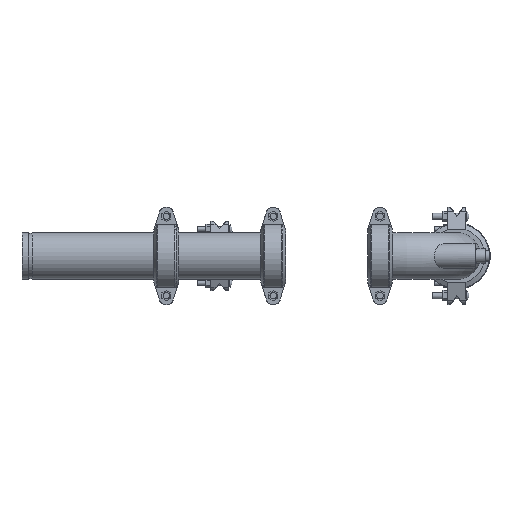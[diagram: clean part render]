
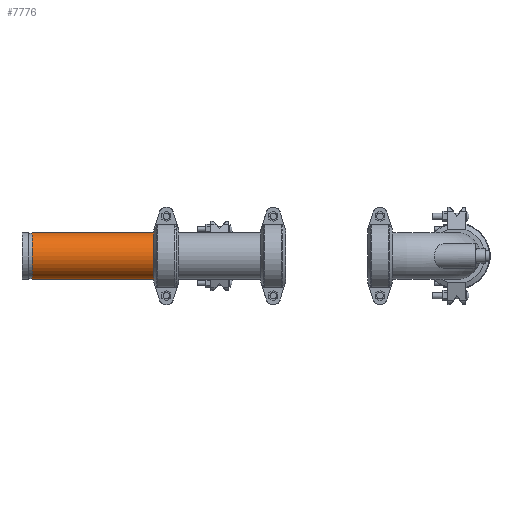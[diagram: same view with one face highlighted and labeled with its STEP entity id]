
A CAD part, left-side view. The second image highlights one B-rep face of the part: STEP entity #7776.
In plain terms, the highlighted cylindrical face has radius 57.15 mm (diameter 114.3 mm), a full revolution.
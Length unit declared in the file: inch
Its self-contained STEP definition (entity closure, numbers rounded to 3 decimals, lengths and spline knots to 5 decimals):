
#220=B_SPLINE_CURVE_WITH_KNOTS('',3,(#14195,#14196,#14197,#14198,#14199,
#14200,#14201,#14202,#14203,#14204,#14205,#14206,#14207,#14208,#14209,#14210,
#14211,#14212,#14213,#14214,#14215,#14216,#14217,#14218,#14219,#14220,#14221,
#14222,#14223,#14224,#14225,#14226),.UNSPECIFIED.,.F.,.F.,(4,2,2,2,2,2,
2,2,2,2,2,2,2,2,2,4),(6.32677,7.01093,7.69508,
8.37924,9.0634,10.85847,11.756,12.65354,
13.33788,14.02223,14.70658,15.39092,16.0566,
16.72228,17.38796,18.05364),.UNSPECIFIED.);
#221=B_SPLINE_CURVE_WITH_KNOTS('',3,(#14229,#14230,#14231,#14232,#14233,
#14234,#14235,#14236,#14237,#14238,#14239,#14240,#14241,#14242,#14243,#14244,
#14245,#14246),.UNSPECIFIED.,.F.,.F.,(4,2,2,2,2,2,2,2,4),(18.05364,
18.71932,19.385,20.05068,20.71636,21.40071,
22.08506,22.7694,23.45375),.UNSPECIFIED.);
#222=B_SPLINE_CURVE_WITH_KNOTS('',3,(#14247,#14248,#14249,#14250,#14251,
#14252,#14253,#14254,#14255,#14256,#14257,#14258,#14259,#14260,#14261,#14262),
 .UNSPECIFIED.,.F.,.F.,(4,2,2,2,2,2,2,4),(0.,0.89753,1.79507,
3.59014,4.2743,4.95845,5.64261,6.32677),
 .UNSPECIFIED.);
#763=LINE('',#14193,#1266);
#764=LINE('',#14227,#1267);
#1266=VECTOR('',#11199,2.25);
#1267=VECTOR('',#11200,2.25);
#1405=CYLINDRICAL_SURFACE('',#8920,2.25);
#1883=FACE_OUTER_BOUND('',#2362,.T.);
#2362=EDGE_LOOP('',(#6691,#6692,#6693,#6694,#6695,#6696,#6697,#6698,#6699,
#6700,#6701));
#2792=CIRCLE('',#8902,2.25);
#2793=CIRCLE('',#8903,2.25);
#2806=CIRCLE('',#8921,2.25);
#2807=CIRCLE('',#8922,2.25);
#3521=VERTEX_POINT('',#14152);
#3522=VERTEX_POINT('',#14153);
#3535=VERTEX_POINT('',#14188);
#3536=VERTEX_POINT('',#14189);
#3537=VERTEX_POINT('',#14192);
#3538=VERTEX_POINT('',#14194);
#3539=VERTEX_POINT('',#14228);
#4580=EDGE_CURVE('',#3521,#3522,#2792,.T.);
#4581=EDGE_CURVE('',#3522,#3521,#2793,.T.);
#4597=EDGE_CURVE('',#3535,#3536,#2806,.T.);
#4598=EDGE_CURVE('',#3536,#3535,#2807,.T.);
#4599=EDGE_CURVE('',#3536,#3537,#763,.T.);
#4600=EDGE_CURVE('',#3537,#3538,#220,.T.);
#4601=EDGE_CURVE('',#3538,#3522,#764,.T.);
#4602=EDGE_CURVE('',#3538,#3539,#221,.T.);
#4603=EDGE_CURVE('',#3539,#3537,#222,.T.);
#6691=ORIENTED_EDGE('',*,*,#4597,.F.);
#6692=ORIENTED_EDGE('',*,*,#4598,.F.);
#6693=ORIENTED_EDGE('',*,*,#4599,.T.);
#6694=ORIENTED_EDGE('',*,*,#4600,.T.);
#6695=ORIENTED_EDGE('',*,*,#4601,.T.);
#6696=ORIENTED_EDGE('',*,*,#4581,.T.);
#6697=ORIENTED_EDGE('',*,*,#4580,.T.);
#6698=ORIENTED_EDGE('',*,*,#4601,.F.);
#6699=ORIENTED_EDGE('',*,*,#4602,.T.);
#6700=ORIENTED_EDGE('',*,*,#4603,.T.);
#6701=ORIENTED_EDGE('',*,*,#4599,.F.);
#7776=ADVANCED_FACE('',(#1883),#1405,.T.);
#8902=AXIS2_PLACEMENT_3D('',#14154,#11154,#11155);
#8903=AXIS2_PLACEMENT_3D('',#14155,#11156,#11157);
#8920=AXIS2_PLACEMENT_3D('',#14187,#11193,#11194);
#8921=AXIS2_PLACEMENT_3D('',#14190,#11195,#11196);
#8922=AXIS2_PLACEMENT_3D('',#14191,#11197,#11198);
#11154=DIRECTION('center_axis',(1.,0.,0.));
#11155=DIRECTION('ref_axis',(0.,0.,-1.));
#11156=DIRECTION('center_axis',(1.,0.,0.));
#11157=DIRECTION('ref_axis',(0.,0.,-1.));
#11193=DIRECTION('center_axis',(1.,0.,0.));
#11194=DIRECTION('ref_axis',(0.,1.,0.));
#11195=DIRECTION('center_axis',(1.,0.,0.));
#11196=DIRECTION('ref_axis',(0.,0.,-1.));
#11197=DIRECTION('center_axis',(1.,0.,0.));
#11198=DIRECTION('ref_axis',(0.,0.,-1.));
#11199=DIRECTION('',(-1.,0.,0.));
#11200=DIRECTION('',(-1.,0.,0.));
#14152=CARTESIAN_POINT('',(-5.875,2.25,0.));
#14153=CARTESIAN_POINT('',(-5.875,-2.25,0.));
#14154=CARTESIAN_POINT('Origin',(-5.875,0.,0.));
#14155=CARTESIAN_POINT('Origin',(-5.875,0.,0.));
#14187=CARTESIAN_POINT('Origin',(0.,0.,0.));
#14188=CARTESIAN_POINT('',(5.875,2.25,0.));
#14189=CARTESIAN_POINT('',(5.875,-2.25,0.));
#14190=CARTESIAN_POINT('Origin',(5.875,0.,0.));
#14191=CARTESIAN_POINT('Origin',(5.875,0.,0.));
#14192=CARTESIAN_POINT('',(-0.13042,-2.25,0.));
#14193=CARTESIAN_POINT('',(0.,-2.25,0.));
#14194=CARTESIAN_POINT('',(-3.30585,-2.25,0.));
#14195=CARTESIAN_POINT('Ctrl Pts',(-0.13042,-2.25,0.));
#14196=CARTESIAN_POINT('Ctrl Pts',(-0.13042,-2.25,-0.08978));
#14197=CARTESIAN_POINT('Ctrl Pts',(-0.14387,-2.24453,
-0.17954));
#14198=CARTESIAN_POINT('Ctrl Pts',(-0.19537,-2.22384,
-0.35309));
#14199=CARTESIAN_POINT('Ctrl Pts',(-0.2334,-2.20865,
-0.4369));
#14200=CARTESIAN_POINT('Ctrl Pts',(-0.32807,-2.17169,
-0.59395));
#14201=CARTESIAN_POINT('Ctrl Pts',(-0.38477,-2.14991,
-0.66739));
#14202=CARTESIAN_POINT('Ctrl Pts',(-0.50907,-2.1037,
-0.80123));
#14203=CARTESIAN_POINT('Ctrl Pts',(-0.57665,-2.07929,
-0.86164));
#14204=CARTESIAN_POINT('Ctrl Pts',(-0.82442,-1.99355,
-1.05431));
#14205=CARTESIAN_POINT('Ctrl Pts',(-1.04242,-1.92451,
-1.16963));
#14206=CARTESIAN_POINT('Ctrl Pts',(-1.39074,-1.84433,
-1.28968));
#14207=CARTESIAN_POINT('Ctrl Pts',(-1.5104,-1.8216,-1.32098));
#14208=CARTESIAN_POINT('Ctrl Pts',(-1.75059,-1.78988,
-1.36364));
#14209=CARTESIAN_POINT('Ctrl Pts',(-1.87114,-1.78098,
-1.375));
#14210=CARTESIAN_POINT('Ctrl Pts',(-2.07874,-1.78098,
-1.375));
#14211=CARTESIAN_POINT('Ctrl Pts',(-2.17168,-1.78624,
-1.36829));
#14212=CARTESIAN_POINT('Ctrl Pts',(-2.35487,-1.80955,
-1.33732));
#14213=CARTESIAN_POINT('Ctrl Pts',(-2.4451,-1.82762,
-1.313));
#14214=CARTESIAN_POINT('Ctrl Pts',(-2.61505,-1.87397,
-1.24595));
#14215=CARTESIAN_POINT('Ctrl Pts',(-2.69507,-1.90225,
-1.2031));
#14216=CARTESIAN_POINT('Ctrl Pts',(-2.84002,-1.9627,
-1.10172));
#14217=CARTESIAN_POINT('Ctrl Pts',(-2.90499,-1.99477,
-1.0432));
#14218=CARTESIAN_POINT('Ctrl Pts',(-3.01609,-2.0549,
-0.91898));
#14219=CARTESIAN_POINT('Ctrl Pts',(-3.06616,-2.08494,-0.84969));
#14220=CARTESIAN_POINT('Ctrl Pts',(-3.15304,-2.1403,
-0.69863));
#14221=CARTESIAN_POINT('Ctrl Pts',(-3.18987,-2.16557,-0.61686));
#14222=CARTESIAN_POINT('Ctrl Pts',(-3.24854,-2.20708,
-0.44612));
#14223=CARTESIAN_POINT('Ctrl Pts',(-3.27043,-2.22333,
-0.357));
#14224=CARTESIAN_POINT('Ctrl Pts',(-3.29909,-2.2448,
-0.17762));
#14225=CARTESIAN_POINT('Ctrl Pts',(-3.30585,-2.25,-0.08736));
#14226=CARTESIAN_POINT('Ctrl Pts',(-3.30585,-2.25,0.));
#14227=CARTESIAN_POINT('',(0.,-2.25,0.));
#14228=CARTESIAN_POINT('',(-1.98893,-1.78098,1.375));
#14229=CARTESIAN_POINT('Ctrl Pts',(-3.30585,-2.25,0.));
#14230=CARTESIAN_POINT('Ctrl Pts',(-3.30585,-2.25,0.08736));
#14231=CARTESIAN_POINT('Ctrl Pts',(-3.29909,-2.2448,
0.17762));
#14232=CARTESIAN_POINT('Ctrl Pts',(-3.27043,-2.22333,
0.357));
#14233=CARTESIAN_POINT('Ctrl Pts',(-3.24854,-2.20708,
0.44612));
#14234=CARTESIAN_POINT('Ctrl Pts',(-3.18987,-2.16557,0.61686));
#14235=CARTESIAN_POINT('Ctrl Pts',(-3.15304,-2.1403,
0.69863));
#14236=CARTESIAN_POINT('Ctrl Pts',(-3.06616,-2.08494,0.84969));
#14237=CARTESIAN_POINT('Ctrl Pts',(-3.01609,-2.0549,
0.91898));
#14238=CARTESIAN_POINT('Ctrl Pts',(-2.90499,-1.99477,
1.0432));
#14239=CARTESIAN_POINT('Ctrl Pts',(-2.84002,-1.9627,
1.10172));
#14240=CARTESIAN_POINT('Ctrl Pts',(-2.69507,-1.90225,
1.2031));
#14241=CARTESIAN_POINT('Ctrl Pts',(-2.61505,-1.87397,
1.24595));
#14242=CARTESIAN_POINT('Ctrl Pts',(-2.4451,-1.82762,
1.313));
#14243=CARTESIAN_POINT('Ctrl Pts',(-2.35487,-1.80955,
1.33732));
#14244=CARTESIAN_POINT('Ctrl Pts',(-2.17168,-1.78624,
1.36829));
#14245=CARTESIAN_POINT('Ctrl Pts',(-2.07874,-1.78098,
1.375));
#14246=CARTESIAN_POINT('Ctrl Pts',(-1.98893,-1.78098,
1.375));
#14247=CARTESIAN_POINT('Ctrl Pts',(-1.98893,-1.78098,
1.375));
#14248=CARTESIAN_POINT('Ctrl Pts',(-1.87114,-1.78098,
1.375));
#14249=CARTESIAN_POINT('Ctrl Pts',(-1.75059,-1.78988,
1.36364));
#14250=CARTESIAN_POINT('Ctrl Pts',(-1.5104,-1.8216,1.32098));
#14251=CARTESIAN_POINT('Ctrl Pts',(-1.39074,-1.84433,
1.28968));
#14252=CARTESIAN_POINT('Ctrl Pts',(-1.04242,-1.92451,
1.16963));
#14253=CARTESIAN_POINT('Ctrl Pts',(-0.82442,-1.99355,
1.05431));
#14254=CARTESIAN_POINT('Ctrl Pts',(-0.57665,-2.07929,
0.86164));
#14255=CARTESIAN_POINT('Ctrl Pts',(-0.50907,-2.1037,
0.80123));
#14256=CARTESIAN_POINT('Ctrl Pts',(-0.38477,-2.14991,
0.66739));
#14257=CARTESIAN_POINT('Ctrl Pts',(-0.32807,-2.17169,
0.59395));
#14258=CARTESIAN_POINT('Ctrl Pts',(-0.2334,-2.20865,
0.4369));
#14259=CARTESIAN_POINT('Ctrl Pts',(-0.19537,-2.22384,
0.35309));
#14260=CARTESIAN_POINT('Ctrl Pts',(-0.14387,-2.24453,
0.17954));
#14261=CARTESIAN_POINT('Ctrl Pts',(-0.13042,-2.25,0.08978));
#14262=CARTESIAN_POINT('Ctrl Pts',(-0.13042,-2.25,0.));
